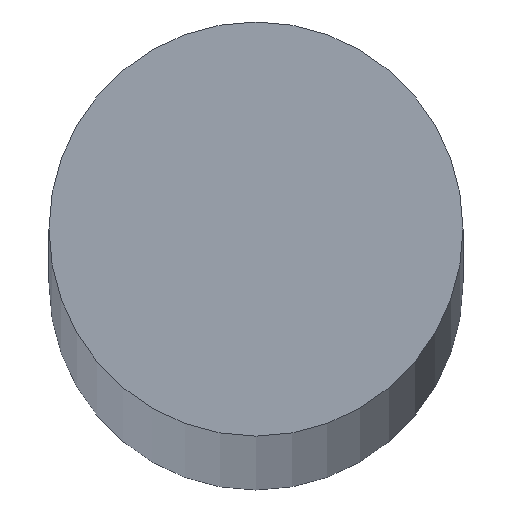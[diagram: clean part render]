
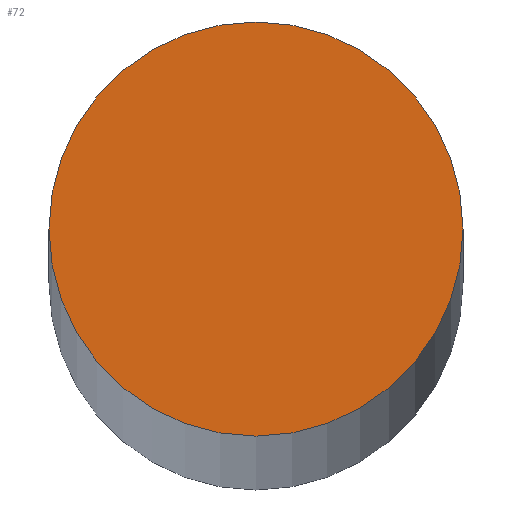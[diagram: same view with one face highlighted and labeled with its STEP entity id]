
A CAD part, top view. The second image highlights one B-rep face of the part: STEP entity #72.
In plain terms, the highlighted planar face has unit normal (0, 0, 1).
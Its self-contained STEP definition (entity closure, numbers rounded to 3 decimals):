
#4 = CARTESIAN_POINT ( 'NONE',  ( 6., 0., 447.5 ) ) ;
#24 = DIRECTION ( 'NONE',  ( 1., 0., 0. ) ) ;
#25 = DIRECTION ( 'NONE',  ( 0., 0., 1. ) ) ;
#27 = CARTESIAN_POINT ( 'NONE',  ( 0., 0., 447.5 ) ) ;
#30 = CARTESIAN_POINT ( 'NONE',  ( -6., 0., 447.5 ) ) ;
#32 = DIRECTION ( 'NONE',  ( 1., 0., 0. ) ) ;
#34 = VERTEX_POINT ( 'NONE', #4 ) ;
#35 = DIRECTION ( 'NONE',  ( 1., 0., 0. ) ) ;
#36 = DIRECTION ( 'NONE',  ( 0., 0., 1. ) ) ;
#37 = DIRECTION ( 'NONE',  ( 0., 0., 1. ) ) ;
#38 = PLANE ( 'NONE',  #127 ) ;
#39 = CARTESIAN_POINT ( 'NONE',  ( 0., 0., 447.5 ) ) ;
#46 = CARTESIAN_POINT ( 'NONE',  ( 0., 0., 447.5 ) ) ;
#57 = VERTEX_POINT ( 'NONE', #30 ) ;
#72 = ADVANCED_FACE ( 'NONE', ( #112 ), #38, .T. ) ;
#73 = CIRCLE ( 'NONE', #138, 6. ) ;
#76 = CIRCLE ( 'NONE', #121, 6. ) ;
#80 = EDGE_LOOP ( 'NONE', ( #107, #96 ) ) ;
#96 = ORIENTED_EDGE ( 'NONE', *, *, #119, .T. ) ;
#107 = ORIENTED_EDGE ( 'NONE', *, *, #131, .T. ) ;
#112 = FACE_OUTER_BOUND ( 'NONE', #80, .T. ) ;
#119 = EDGE_CURVE ( 'NONE', #34, #57, #76, .T. ) ;
#121 = AXIS2_PLACEMENT_3D ( 'NONE', #46, #37, #32 ) ;
#127 = AXIS2_PLACEMENT_3D ( 'NONE', #39, #36, #35 ) ;
#131 = EDGE_CURVE ( 'NONE', #57, #34, #73, .T. ) ;
#138 = AXIS2_PLACEMENT_3D ( 'NONE', #27, #25, #24 ) ;
